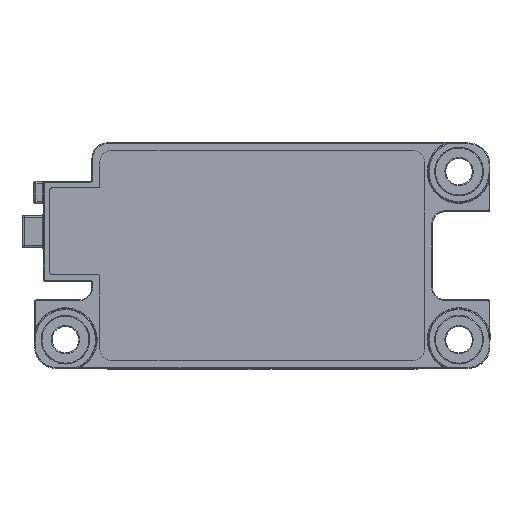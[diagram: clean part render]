
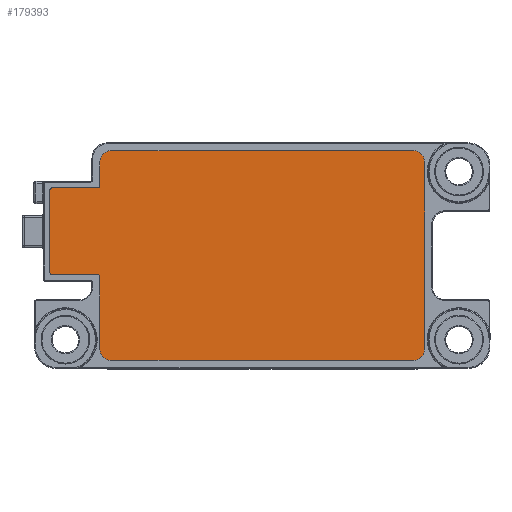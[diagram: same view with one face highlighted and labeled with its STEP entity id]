
A CAD part, top view. The second image highlights one B-rep face of the part: STEP entity #179393.
In plain terms, the highlighted planar face has unit normal (0, 0, 1).
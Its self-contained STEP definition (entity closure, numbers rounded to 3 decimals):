
#274 = CARTESIAN_POINT ( 'NONE',  ( -93.884, -20.384, 57.528 ) ) ;
#3875 = VERTEX_POINT ( 'NONE', #182562 ) ;
#6142 = CARTESIAN_POINT ( 'NONE',  ( -105.184, 18.116, 57.528 ) ) ;
#6978 = EDGE_CURVE ( 'NONE', #124404, #122636, #9208, .T. ) ;
#8032 = AXIS2_PLACEMENT_3D ( 'NONE', #139392, #22980, #67095 ) ;
#8526 = CARTESIAN_POINT ( 'NONE',  ( -93.884, -0.984, 57.528 ) ) ;
#9208 = CIRCLE ( 'NONE', #50459, 2.5 ) ;
#9324 = VERTEX_POINT ( 'NONE', #99107 ) ;
#11299 = DIRECTION ( 'NONE',  ( -1., 0., 0. ) ) ;
#11617 = EDGE_CURVE ( 'NONE', #169044, #3875, #145450, .T. ) ;
#12181 = EDGE_CURVE ( 'NONE', #172955, #122636, #167354, .T. ) ;
#13923 = ORIENTED_EDGE ( 'NONE', *, *, #16670, .F. ) ;
#13929 = ORIENTED_EDGE ( 'NONE', *, *, #12181, .F. ) ;
#15128 = CARTESIAN_POINT ( 'NONE',  ( -104.684, -0.984, 57.528 ) ) ;
#15920 = EDGE_LOOP ( 'NONE', ( #13923, #19431, #143449, #65707, #38942, #144357, #163185, #116486, #13929, #137852, #67128, #123314, #43447, #79452, #60242, #126173 ) ) ;
#16670 = EDGE_CURVE ( 'NONE', #76283, #116673, #111682, .T. ) ;
#18675 = DIRECTION ( 'NONE',  ( 0., 0., 1. ) ) ;
#19431 = ORIENTED_EDGE ( 'NONE', *, *, #176725, .T. ) ;
#21864 = LINE ( 'NONE', #128922, #88734 ) ;
#22458 = VERTEX_POINT ( 'NONE', #93094 ) ;
#22762 = VECTOR ( 'NONE', #173363, 1000. ) ;
#22980 = DIRECTION ( 'NONE',  ( 0., 0., -1. ) ) ;
#24028 = CARTESIAN_POINT ( 'NONE',  ( -94.384, 18.616, 57.528 ) ) ;
#24915 = DIRECTION ( 'NONE',  ( 0., 1., 0. ) ) ;
#24997 = CARTESIAN_POINT ( 'NONE',  ( -104.684, 18.116, 57.528 ) ) ;
#26113 = CARTESIAN_POINT ( 'NONE',  ( -93.884, 27.016, 57.528 ) ) ;
#28648 = AXIS2_PLACEMENT_3D ( 'NONE', #165344, #179718, #52503 ) ;
#29767 = DIRECTION ( 'NONE',  ( -1., 0., 0. ) ) ;
#31521 = CARTESIAN_POINT ( 'NONE',  ( -93.884, 27.016, 57.528 ) ) ;
#35990 = VERTEX_POINT ( 'NONE', #144296 ) ;
#36147 = VERTEX_POINT ( 'NONE', #136781 ) ;
#36381 = EDGE_CURVE ( 'NONE', #35990, #50691, #171168, .T. ) ;
#38942 = ORIENTED_EDGE ( 'NONE', *, *, #104490, .F. ) ;
#40351 = CARTESIAN_POINT ( 'NONE',  ( -93.884, 19.116, 57.528 ) ) ;
#41090 = DIRECTION ( 'NONE',  ( -1., 0., 0. ) ) ;
#43243 = VECTOR ( 'NONE', #70206, 1000. ) ;
#43447 = ORIENTED_EDGE ( 'NONE', *, *, #11617, .T. ) ;
#43630 = CARTESIAN_POINT ( 'NONE',  ( -20.484, -17.884, 57.528 ) ) ;
#43701 = CARTESIAN_POINT ( 'NONE',  ( -57.184, 3.316, 57.528 ) ) ;
#45446 = VECTOR ( 'NONE', #66304, 1000. ) ;
#49069 = FACE_OUTER_BOUND ( 'NONE', #15920, .T. ) ;
#50459 = AXIS2_PLACEMENT_3D ( 'NONE', #183155, #155638, #41090 ) ;
#50691 = VERTEX_POINT ( 'NONE', #121091 ) ;
#52503 = DIRECTION ( 'NONE',  ( -1., 0., 0. ) ) ;
#56122 = DIRECTION ( 'NONE',  ( 0., 0., 1. ) ) ;
#57380 = PLANE ( 'NONE',  #58858 ) ;
#58858 = AXIS2_PLACEMENT_3D ( 'NONE', #43701, #56122, #75958 ) ;
#59496 = EDGE_CURVE ( 'NONE', #36147, #169044, #164679, .T. ) ;
#60242 = ORIENTED_EDGE ( 'NONE', *, *, #63711, .T. ) ;
#63645 = VERTEX_POINT ( 'NONE', #24028 ) ;
#63711 = EDGE_CURVE ( 'NONE', #168707, #68125, #99050, .T. ) ;
#65707 = ORIENTED_EDGE ( 'NONE', *, *, #145650, .T. ) ;
#66304 = DIRECTION ( 'NONE',  ( 1., 0., 0. ) ) ;
#67095 = DIRECTION ( 'NONE',  ( -1., 0., 0. ) ) ;
#67128 = ORIENTED_EDGE ( 'NONE', *, *, #85982, .T. ) ;
#67866 = DIRECTION ( 'NONE',  ( 0., 0., 1. ) ) ;
#68125 = VERTEX_POINT ( 'NONE', #178479 ) ;
#69208 = AXIS2_PLACEMENT_3D ( 'NONE', #151714, #181091, #166097 ) ;
#70206 = DIRECTION ( 'NONE',  ( 1., 0., 0. ) ) ;
#71475 = AXIS2_PLACEMENT_3D ( 'NONE', #158178, #18675, #128993 ) ;
#71804 = DIRECTION ( 'NONE',  ( -1., 0., 0. ) ) ;
#73725 = VECTOR ( 'NONE', #24915, 1000. ) ;
#75958 = DIRECTION ( 'NONE',  ( -1., 0., 0. ) ) ;
#76283 = VERTEX_POINT ( 'NONE', #103015 ) ;
#76815 = CARTESIAN_POINT ( 'NONE',  ( -91.384, 27.016, 57.528 ) ) ;
#79452 = ORIENTED_EDGE ( 'NONE', *, *, #157837, .T. ) ;
#81045 = CIRCLE ( 'NONE', #8032, 0.5 ) ;
#83135 = VECTOR ( 'NONE', #179064, 1000. ) ;
#85982 = EDGE_CURVE ( 'NONE', #63645, #36147, #21864, .T. ) ;
#87858 = AXIS2_PLACEMENT_3D ( 'NONE', #133809, #148688, #91523 ) ;
#88734 = VECTOR ( 'NONE', #29767, 1000. ) ;
#89800 = DIRECTION ( 'NONE',  ( 0., 0., 1. ) ) ;
#91523 = DIRECTION ( 'NONE',  ( -1., 0., 0. ) ) ;
#92218 = EDGE_CURVE ( 'NONE', #124404, #9324, #150281, .T. ) ;
#93094 = CARTESIAN_POINT ( 'NONE',  ( -20.484, 24.516, 57.528 ) ) ;
#99050 = LINE ( 'NONE', #8526, #45446 ) ;
#99107 = CARTESIAN_POINT ( 'NONE',  ( -22.984, 27.016, 57.528 ) ) ;
#103015 = CARTESIAN_POINT ( 'NONE',  ( -93.884, -17.884, 57.528 ) ) ;
#103588 = CARTESIAN_POINT ( 'NONE',  ( -22.984, -17.884, 57.528 ) ) ;
#104490 = EDGE_CURVE ( 'NONE', #22458, #153942, #116460, .T. ) ;
#111682 = LINE ( 'NONE', #26113, #73725 ) ;
#116067 = VECTOR ( 'NONE', #130637, 1000. ) ;
#116460 = LINE ( 'NONE', #145265, #22762 ) ;
#116486 = ORIENTED_EDGE ( 'NONE', *, *, #6978, .T. ) ;
#116673 = VERTEX_POINT ( 'NONE', #183347 ) ;
#121091 = CARTESIAN_POINT ( 'NONE',  ( -91.384, -20.384, 57.528 ) ) ;
#121490 = AXIS2_PLACEMENT_3D ( 'NONE', #24997, #67866, #11299 ) ;
#122636 = VERTEX_POINT ( 'NONE', #123771 ) ;
#123314 = ORIENTED_EDGE ( 'NONE', *, *, #59496, .T. ) ;
#123771 = CARTESIAN_POINT ( 'NONE',  ( -93.884, 24.516, 57.528 ) ) ;
#124404 = VERTEX_POINT ( 'NONE', #76815 ) ;
#126173 = ORIENTED_EDGE ( 'NONE', *, *, #151018, .T. ) ;
#127061 = CARTESIAN_POINT ( 'NONE',  ( -93.884, 27.016, 57.528 ) ) ;
#127982 = EDGE_CURVE ( 'NONE', #22458, #9324, #169492, .T. ) ;
#128922 = CARTESIAN_POINT ( 'NONE',  ( -93.884, 18.616, 57.528 ) ) ;
#128993 = DIRECTION ( 'NONE',  ( 1., 0., 0. ) ) ;
#130637 = DIRECTION ( 'NONE',  ( 0., 1., 0. ) ) ;
#133809 = CARTESIAN_POINT ( 'NONE',  ( -94.384, 19.116, 57.528 ) ) ;
#136781 = CARTESIAN_POINT ( 'NONE',  ( -104.684, 18.616, 57.528 ) ) ;
#137852 = ORIENTED_EDGE ( 'NONE', *, *, #169091, .T. ) ;
#139392 = CARTESIAN_POINT ( 'NONE',  ( -94.384, -1.484, 57.528 ) ) ;
#143449 = ORIENTED_EDGE ( 'NONE', *, *, #36381, .F. ) ;
#144296 = CARTESIAN_POINT ( 'NONE',  ( -22.984, -20.384, 57.528 ) ) ;
#144357 = ORIENTED_EDGE ( 'NONE', *, *, #127982, .T. ) ;
#145265 = CARTESIAN_POINT ( 'NONE',  ( -20.484, 27.016, 57.528 ) ) ;
#145450 = LINE ( 'NONE', #167174, #83135 ) ;
#145650 = EDGE_CURVE ( 'NONE', #35990, #153942, #149049, .T. ) ;
#148688 = DIRECTION ( 'NONE',  ( 0., 0., -1. ) ) ;
#149049 = CIRCLE ( 'NONE', #174967, 2.5 ) ;
#150281 = LINE ( 'NONE', #127061, #43243 ) ;
#151018 = EDGE_CURVE ( 'NONE', #68125, #116673, #81045, .T. ) ;
#151714 = CARTESIAN_POINT ( 'NONE',  ( -22.984, 24.516, 57.528 ) ) ;
#153942 = VERTEX_POINT ( 'NONE', #43630 ) ;
#155638 = DIRECTION ( 'NONE',  ( 0., 0., 1. ) ) ;
#157837 = EDGE_CURVE ( 'NONE', #3875, #168707, #171719, .T. ) ;
#158178 = CARTESIAN_POINT ( 'NONE',  ( -104.684, -0.484, 57.528 ) ) ;
#160764 = DIRECTION ( 'NONE',  ( -1., 0., 0. ) ) ;
#161589 = CIRCLE ( 'NONE', #87858, 0.5 ) ;
#163185 = ORIENTED_EDGE ( 'NONE', *, *, #92218, .F. ) ;
#164515 = VECTOR ( 'NONE', #71804, 1000. ) ;
#164679 = CIRCLE ( 'NONE', #121490, 0.5 ) ;
#165344 = CARTESIAN_POINT ( 'NONE',  ( -91.384, -17.884, 57.528 ) ) ;
#166097 = DIRECTION ( 'NONE',  ( -1., 0., 0. ) ) ;
#167174 = CARTESIAN_POINT ( 'NONE',  ( -105.184, -0.484, 57.528 ) ) ;
#167354 = LINE ( 'NONE', #31521, #116067 ) ;
#168707 = VERTEX_POINT ( 'NONE', #15128 ) ;
#169044 = VERTEX_POINT ( 'NONE', #6142 ) ;
#169091 = EDGE_CURVE ( 'NONE', #172955, #63645, #161589, .T. ) ;
#169492 = CIRCLE ( 'NONE', #69208, 2.5 ) ;
#171168 = LINE ( 'NONE', #274, #164515 ) ;
#171719 = CIRCLE ( 'NONE', #71475, 0.5 ) ;
#172955 = VERTEX_POINT ( 'NONE', #40351 ) ;
#173363 = DIRECTION ( 'NONE',  ( 0., -1., 0. ) ) ;
#173722 = CIRCLE ( 'NONE', #28648, 2.5 ) ;
#174967 = AXIS2_PLACEMENT_3D ( 'NONE', #103588, #89800, #160764 ) ;
#176725 = EDGE_CURVE ( 'NONE', #76283, #50691, #173722, .T. ) ;
#178479 = CARTESIAN_POINT ( 'NONE',  ( -94.384, -0.984, 57.528 ) ) ;
#179064 = DIRECTION ( 'NONE',  ( 0., -1., 0. ) ) ;
#179393 = ADVANCED_FACE ( 'NONE', ( #49069 ), #57380, .T. ) ;
#179718 = DIRECTION ( 'NONE',  ( 0., 0., 1. ) ) ;
#181091 = DIRECTION ( 'NONE',  ( 0., 0., 1. ) ) ;
#182562 = CARTESIAN_POINT ( 'NONE',  ( -105.184, -0.484, 57.528 ) ) ;
#183155 = CARTESIAN_POINT ( 'NONE',  ( -91.384, 24.516, 57.528 ) ) ;
#183347 = CARTESIAN_POINT ( 'NONE',  ( -93.884, -1.484, 57.528 ) ) ;
